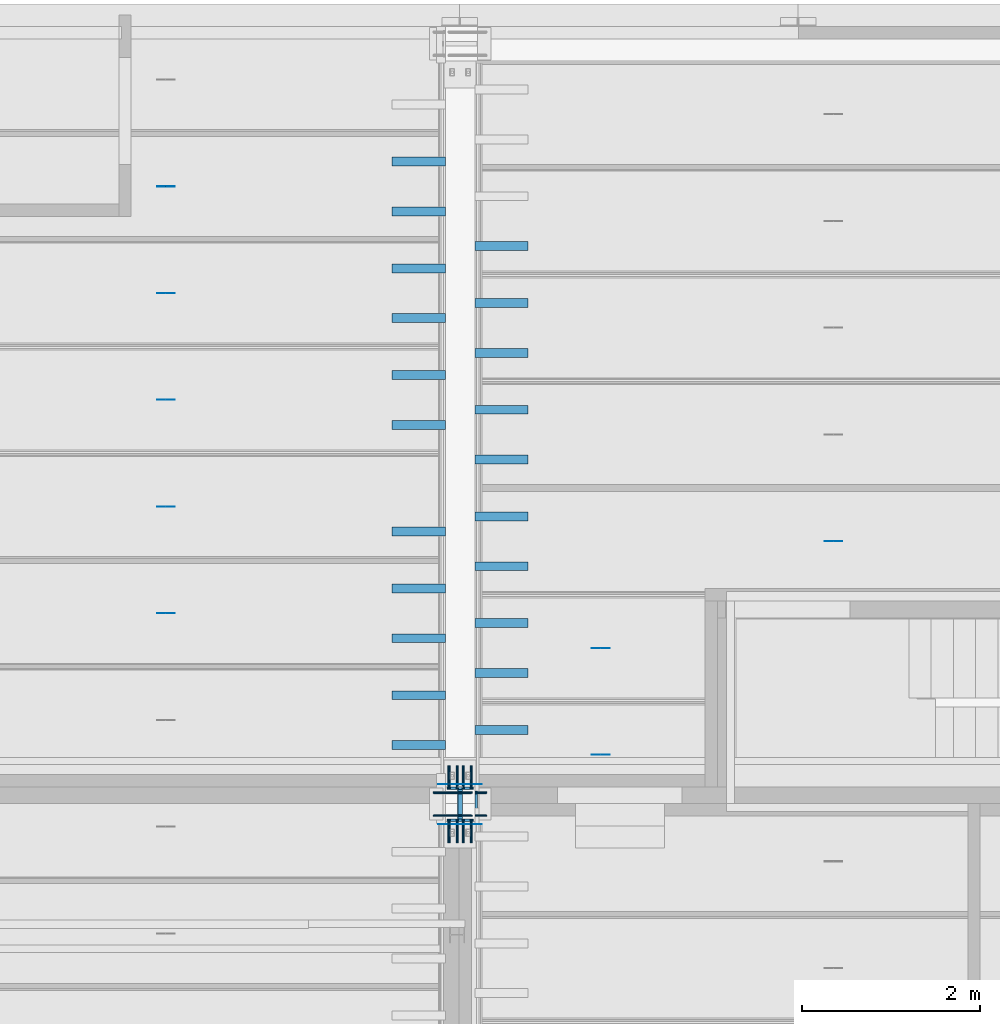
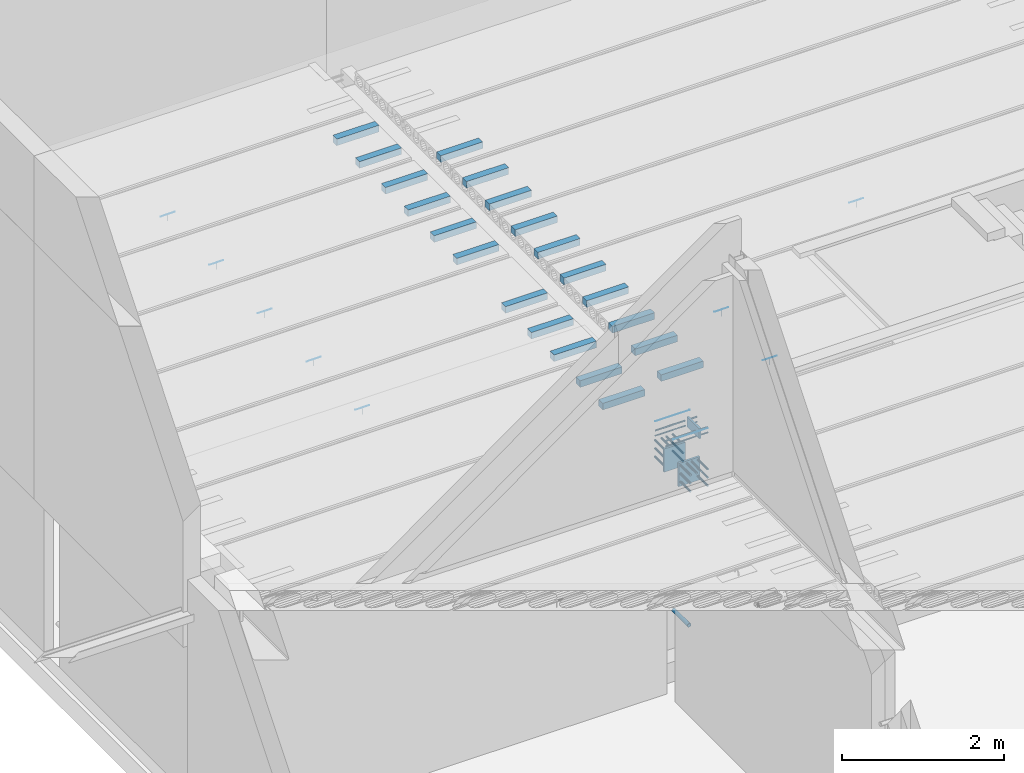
# One storey, part 26 of 230: 71 beams.
"""IFC4X3_ADD2 building model written with IfcOpenShell, lengths in millimetres."""

from ifc_helpers import new_model, si_unit, direction, frame, frame_2d, origin_with_axes, place, context, subcontext, project, spatial, indexed_curve, rectangle, hollow_circle, outline, extrude, material, element, save


model = new_model("IFC4X3_ADD2")

# Units and contexts
model_context = context("Model", 3, precision=1e-05, world=origin_with_axes(), true_north=direction((0.0, 1.0)))
body_context = subcontext(model_context, "Body", "Model", "MODEL_VIEW")
ifc_project = project(units=[si_unit("LENGTHUNIT", "METRE", prefix="MILLI"), si_unit("AREAUNIT", "SQUARE_METRE"), si_unit("VOLUMEUNIT", "CUBIC_METRE"), si_unit("PLANEANGLEUNIT", "RADIAN"), si_unit("TIMEUNIT", "SECOND"), si_unit("MASSUNIT", "GRAM")], contexts=[model_context])

# Site, building, storey
site_placement = place(None, origin_with_axes())
site = spatial("IfcSite", under=ifc_project, at=site_placement, Name="Site", CompositionType="ELEMENT")
building_placement = place(site_placement, origin_with_axes())
building = spatial("IfcBuilding", under=site, at=building_placement, Name="IFC Building Story")
storey_placement = place(building_placement, origin_with_axes())
storey = spatial("IfcBuildingStorey", under=building, at=storey_placement, Name="ETAGE 00 (0)", Elevation=0.0)

# Beams
ifc_material_1 = material(Name="STEEL/Accessory_invisible")
beam_1_placement = place(storey_placement, frame((39801.1890000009, 19030.0009155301, 4150.0), z_axis=(-1.0, 0.0, 0.0), x_axis=(0.0, -1.0, 0.0)))
element("IfcBeam", 1, at=beam_1_placement, inside=storey, material=ifc_material_1, Name="ES7", ObjectType="100*100", context=body_context, shape_type="SweptSolid", body=[
    extrude(rectangle(XDim=100.0, YDim=99.99999999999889, at=frame_2d((0.0, 5.95523630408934e-12), x_axis=(1.0, 0.0))), origin_with_axes(), (0.0, 0.0, 1.0), 600.0),
])
beam_2_placement = place(storey_placement, frame((39801.1890000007, 18470.000915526, 4150.0), z_axis=(-1.0, 0.0, 0.0), x_axis=(0.0, -1.0, 0.0)))
element("IfcBeam", 2, at=beam_2_placement, inside=storey, material=ifc_material_1, Name="ES7", ObjectType="100*100", context=body_context, shape_type="SweptSolid", body=[
    extrude(rectangle(XDim=100.0, YDim=99.99999999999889, at=frame_2d((0.0, 5.95523630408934e-12), x_axis=(1.0, 0.0))), origin_with_axes(), (0.0, 0.0, 1.0), 600.0000000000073),
])
for number, where, z_axis, x_axis, name in (
    (3, (39801.189000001, 20230.0009155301, 4150.0), (-1.0, 0.0, 0.0), (0.0, -1.0, 0.0), "ES7"),
    (4, (39801.1890000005, 19670.000915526, 4150.0), (-1.0, 0.0, 0.0), (0.0, -1.0, 0.0), "ES7"),
):
    element("IfcBeam", number, at=place(storey_placement, frame(where, z_axis=z_axis, x_axis=x_axis)), inside=storey, material=ifc_material_1, Name=name, ObjectType="100*100", context=body_context, shape_type="SweptSolid", body=[
        extrude(rectangle(XDim=100.0, YDim=99.99999999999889, at=frame_2d((0.0, 5.95523630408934e-12), x_axis=(1.0, 0.0))), origin_with_axes(), (0.0, 0.0, 1.0), 600.0),
    ])
ifc_material_2 = material(Name="STEEL/Accessory_invisible 261")
beam_3_placement = place(storey_placement, frame((36659.1890000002, 19950.0009155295, 4049.9999909), z_axis=(-1.0, 0.0, 0.0), x_axis=(0.0, 0.0, -1.0)))
element("IfcBeam", 5, at=beam_3_placement, inside=storey, material=ifc_material_2, Name="ES6", ObjectType="1*1 2", context=body_context, shape_type="SweptSolid", body=[
    extrude(rectangle(XDim=100.0, YDim=0.9999999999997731, at=frame_2d((0.0, 5.95523630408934e-12), x_axis=(1.0, 0.0))), origin_with_axes(), (0.0, 0.0, 1.0), 1.0),
])
beam_4_placement = place(storey_placement, frame((36758.68900000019, 19950.0009155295, 4100.0), z_axis=(-1.0, 0.0, 0.0), x_axis=(0.0, 1.0, 0.0)))
element("IfcBeam", 6, at=beam_4_placement, inside=storey, material=ifc_material_2, Name="ES31", ObjectType="1*1 3", context=body_context, shape_type="SweptSolid", body=[
    extrude(rectangle(XDim=0.9999999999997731, YDim=0.9999999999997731, at=frame_2d((0.0, 5.95523630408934e-12), x_axis=(1.0, 0.0))), origin_with_axes(), (0.0, 0.0, 1.0), 199.9999999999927),
])
beam_5_placement = place(storey_placement, frame((39801.1890000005, 20870.000915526, 4150.0), z_axis=(-1.0, 0.0, 0.0), x_axis=(0.0, -1.0, 0.0)))
element("IfcBeam", 7, at=beam_5_placement, inside=storey, material=ifc_material_1, Name="ES7", ObjectType="100*100", context=body_context, shape_type="SweptSolid", body=[
    extrude(rectangle(XDim=100.0, YDim=99.99999999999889, at=frame_2d((0.0, 5.95523630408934e-12), x_axis=(1.0, 0.0))), origin_with_axes(), (0.0, 0.0, 1.0), 600.0),
])
beam_6_placement = place(storey_placement, frame((36659.1890000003, 21150.0009155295, 4049.9999909), z_axis=(-1.0, 0.0, 0.0), x_axis=(0.0, 0.0, -1.0)))
element("IfcBeam", 8, at=beam_6_placement, inside=storey, material=ifc_material_2, Name="ES6", ObjectType="1*1 2", context=body_context, shape_type="SweptSolid", body=[
    extrude(rectangle(XDim=100.0, YDim=0.9999999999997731, at=frame_2d((0.0, 5.95523630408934e-12), x_axis=(1.0, 0.0))), origin_with_axes(), (0.0, 0.0, 1.0), 1.0),
])
beam_7_placement = place(storey_placement, frame((36758.6890000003, 21150.0009155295, 4100.0), z_axis=(-1.0, 0.0, 0.0), x_axis=(0.0, 1.0, 0.0)))
element("IfcBeam", 9, at=beam_7_placement, inside=storey, material=ifc_material_2, Name="ES31", ObjectType="1*1 3", context=body_context, shape_type="SweptSolid", body=[
    extrude(rectangle(XDim=0.9999999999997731, YDim=0.9999999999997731, at=frame_2d((0.0, 5.95523630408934e-12), x_axis=(1.0, 0.0))), origin_with_axes(), (0.0, 0.0, 1.0), 200.0),
])
for number, where, z_axis, x_axis, name in (
    (10, (39801.189000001, 22630.0009155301, 4150.0), (-1.0, 0.0, 0.0), (0.0, -1.0, 0.0), "ES7"),
    (11, (39801.1890000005, 22070.0009155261, 4150.0), (-1.0, 0.0, 0.0), (0.0, -1.0, 0.0), "ES7"),
):
    element("IfcBeam", number, at=place(storey_placement, frame(where, z_axis=z_axis, x_axis=x_axis)), inside=storey, material=ifc_material_1, Name=name, ObjectType="100*100", context=body_context, shape_type="SweptSolid", body=[
        extrude(rectangle(XDim=100.0, YDim=99.99999999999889, at=frame_2d((0.0, 5.95523630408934e-12), x_axis=(1.0, 0.0))), origin_with_axes(), (0.0, 0.0, 1.0), 600.0),
    ])
beam_8_placement = place(storey_placement, frame((36659.1890000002, 22350.0009155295, 4049.9999909), z_axis=(-1.0, 0.0, 0.0), x_axis=(0.0, 0.0, -1.0)))
element("IfcBeam", 12, at=beam_8_placement, inside=storey, material=ifc_material_2, Name="ES6", ObjectType="1*1 2", context=body_context, shape_type="SweptSolid", body=[
    extrude(rectangle(XDim=100.0, YDim=0.9999999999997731, at=frame_2d((0.0, 5.95523630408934e-12), x_axis=(1.0, 0.0))), origin_with_axes(), (0.0, 0.0, 1.0), 1.0),
])
beam_9_placement = place(storey_placement, frame((36758.68900000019, 22350.0009155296, 4100.0), z_axis=(-1.0, 0.0, 0.0), x_axis=(0.0, 1.0, 0.0)))
element("IfcBeam", 13, at=beam_9_placement, inside=storey, material=ifc_material_2, Name="ES31", ObjectType="1*1 3", context=body_context, shape_type="SweptSolid", body=[
    extrude(rectangle(XDim=0.9999999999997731, YDim=0.9999999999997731, at=frame_2d((0.0, 5.95523630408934e-12), x_axis=(1.0, 0.0))), origin_with_axes(), (0.0, 0.0, 1.0), 199.9999999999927),
])
for number, where, z_axis, x_axis, name in (
    (14, (39801.189000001, 23830.0009155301, 4150.0), (-1.0, 0.0, 0.0), (0.0, -1.0, 0.0), "ES7"),
    (15, (39801.1890000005, 23270.000915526, 4150.0), (-1.0, 0.0, 0.0), (0.0, -1.0, 0.0), "ES7"),
):
    element("IfcBeam", number, at=place(storey_placement, frame(where, z_axis=z_axis, x_axis=x_axis)), inside=storey, material=ifc_material_1, Name=name, ObjectType="100*100", context=body_context, shape_type="SweptSolid", body=[
        extrude(rectangle(XDim=100.0, YDim=99.99999999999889, at=frame_2d((0.0, 5.95523630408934e-12), x_axis=(1.0, 0.0))), origin_with_axes(), (0.0, 0.0, 1.0), 600.0),
    ])
beam_10_placement = place(storey_placement, frame((36659.1890000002, 23550.0009155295, 4049.9999909), z_axis=(-1.0, 0.0, 0.0), x_axis=(0.0, 0.0, -1.0)))
element("IfcBeam", 16, at=beam_10_placement, inside=storey, material=ifc_material_2, Name="ES6", ObjectType="1*1 2", context=body_context, shape_type="SweptSolid", body=[
    extrude(rectangle(XDim=100.0, YDim=0.9999999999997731, at=frame_2d((0.0, 5.95523630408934e-12), x_axis=(1.0, 0.0))), origin_with_axes(), (0.0, 0.0, 1.0), 1.0),
])
beam_11_placement = place(storey_placement, frame((36758.68900000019, 23550.0009155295, 4100.0), z_axis=(-1.0, 0.0, 0.0), x_axis=(0.0, 1.0, 0.0)))
element("IfcBeam", 17, at=beam_11_placement, inside=storey, material=ifc_material_2, Name="ES31", ObjectType="1*1 3", context=body_context, shape_type="SweptSolid", body=[
    extrude(rectangle(XDim=0.9999999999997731, YDim=0.9999999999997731, at=frame_2d((0.0, 5.95523630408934e-12), x_axis=(1.0, 0.0))), origin_with_axes(), (0.0, 0.0, 1.0), 199.9999999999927),
])
for number, where, z_axis, x_axis, name in (
    (18, (39801.1890000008, 25030.0009155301, 4150.0), (-1.0, 0.0, 0.0), (0.0, -1.0, 0.0), "ES7"),
    (19, (39801.1890000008, 24470.000915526, 4150.0), (-1.0, 0.0, 0.0), (0.0, -1.0, 0.0), "ES7"),
):
    element("IfcBeam", number, at=place(storey_placement, frame(where, z_axis=z_axis, x_axis=x_axis)), inside=storey, material=ifc_material_1, Name=name, ObjectType="100*100", context=body_context, shape_type="SweptSolid", body=[
        extrude(rectangle(XDim=100.0, YDim=99.99999999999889, at=frame_2d((0.0, 5.95523630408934e-12), x_axis=(1.0, 0.0))), origin_with_axes(), (0.0, 0.0, 1.0), 600.0),
    ])
beam_12_placement = place(storey_placement, frame((36659.1890000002, 24750.0009155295, 4049.9999909), z_axis=(-1.0, 0.0, 0.0), x_axis=(0.0, 0.0, -1.0)))
element("IfcBeam", 20, at=beam_12_placement, inside=storey, material=ifc_material_2, Name="ES6", ObjectType="1*1 2", context=body_context, shape_type="SweptSolid", body=[
    extrude(rectangle(XDim=100.0, YDim=0.9999999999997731, at=frame_2d((0.0, 5.95523630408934e-12), x_axis=(1.0, 0.0))), origin_with_axes(), (0.0, 0.0, 1.0), 1.0),
])
beam_13_placement = place(storey_placement, frame((36758.68900000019, 24750.0009155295, 4100.0), z_axis=(-1.0, 0.0, 0.0), x_axis=(0.0, 1.0, 0.0)))
element("IfcBeam", 21, at=beam_13_placement, inside=storey, material=ifc_material_2, Name="ES31", ObjectType="1*1 3", context=body_context, shape_type="SweptSolid", body=[
    extrude(rectangle(XDim=0.9999999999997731, YDim=0.9999999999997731, at=frame_2d((0.0, 5.95523630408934e-12), x_axis=(1.0, 0.0))), origin_with_axes(), (0.0, 0.0, 1.0), 199.9999999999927),
])
for number, where, z_axis, x_axis, name in (
    (22, (40731.189, 22240.0006103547, 4150.0), (-1.0, 0.0, 0.0), (0.0, 1.0, 0.0), "ES7"),
    (23, (40731.189, 21680.0006103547, 4150.0), (-1.0, 0.0, 0.0), (0.0, 1.0, 0.0), "ES7"),
    (24, (40731.189, 21040.0006103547, 4150.0), (-1.0, 0.0, 0.0), (0.0, 1.0, 0.0), "ES7"),
    (25, (40731.189, 20480.0006103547, 4150.0), (-1.0, 0.0, 0.0), (0.0, 1.0, 0.0), "ES7"),
):
    element("IfcBeam", number, at=place(storey_placement, frame(where, z_axis=z_axis, x_axis=x_axis)), inside=storey, material=ifc_material_1, Name=name, ObjectType="100*100", context=body_context, shape_type="SweptSolid", body=[
        extrude(rectangle(XDim=100.0, YDim=99.99999999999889, at=frame_2d((0.0, 5.95523630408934e-12), x_axis=(1.0, 0.0))), origin_with_axes(), (0.0, 0.0, 1.0), 600.0),
    ])
beam_14_placement = place(storey_placement, frame((44164.189, 20760.0006103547, 4049.9999909), z_axis=(-1.0, 0.0, 0.0), x_axis=(0.0, 0.0, -1.0)))
element("IfcBeam", 26, at=beam_14_placement, inside=storey, material=ifc_material_2, Name="ES6", ObjectType="1*1 2", context=body_context, shape_type="SweptSolid", body=[
    extrude(rectangle(XDim=100.0, YDim=0.9999999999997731, at=frame_2d((0.0, 5.95523630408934e-12), x_axis=(1.0, 0.0))), origin_with_axes(), (0.0, 0.0, 1.0), 1.0),
])
beam_15_placement = place(storey_placement, frame((44263.689, 20760.0006103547, 4100.0), z_axis=(-1.0, 0.0, 0.0), x_axis=(0.0, 1.0, 0.0)))
element("IfcBeam", 27, at=beam_15_placement, inside=storey, material=ifc_material_2, Name="ES31", ObjectType="1*1 3", context=body_context, shape_type="SweptSolid", body=[
    extrude(rectangle(XDim=0.9999999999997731, YDim=0.9999999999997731, at=frame_2d((0.0, 5.95523630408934e-12), x_axis=(1.0, 0.0))), origin_with_axes(), (0.0, 0.0, 1.0), 199.9999999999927),
])
for number, where, z_axis, x_axis, name in (
    (28, (40731.189, 19840.0, 4150.0), (-1.0, 0.0, 0.0), (0.0, 1.0, 0.0), "ES7"),
    (29, (40731.189, 19280.0, 4150.0), (-1.0, 0.0, 0.0), (0.0, 1.0, 0.0), "ES7"),
):
    element("IfcBeam", number, at=place(storey_placement, frame(where, z_axis=z_axis, x_axis=x_axis)), inside=storey, material=ifc_material_1, Name=name, ObjectType="100*100", context=body_context, shape_type="SweptSolid", body=[
        extrude(rectangle(XDim=100.0, YDim=99.99999999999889, at=frame_2d((0.0, 5.95523630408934e-12), x_axis=(1.0, 0.0))), origin_with_axes(), (0.0, 0.0, 1.0), 600.0),
    ])
beam_16_placement = place(storey_placement, frame((41547.18900000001, 19560.0, 4049.9999909), z_axis=(-1.0, 0.0, 0.0), x_axis=(0.0, 0.0, -1.0)))
element("IfcBeam", 30, at=beam_16_placement, inside=storey, material=ifc_material_2, Name="ES6", ObjectType="1*1 2", context=body_context, shape_type="SweptSolid", body=[
    extrude(rectangle(XDim=100.0, YDim=0.9999999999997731, at=frame_2d((0.0, 5.95523630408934e-12), x_axis=(1.0, 0.0))), origin_with_axes(), (0.0, 0.0, 1.0), 1.0),
])
beam_17_placement = place(storey_placement, frame((41646.68899999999, 19560.0, 4100.0), z_axis=(-1.0, 0.0, 0.0), x_axis=(0.0, 1.0, 0.0)))
element("IfcBeam", 31, at=beam_17_placement, inside=storey, material=ifc_material_2, Name="ES31", ObjectType="1*1 3", context=body_context, shape_type="SweptSolid", body=[
    extrude(rectangle(XDim=0.9999999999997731, YDim=0.9999999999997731, at=frame_2d((0.0, 5.95523630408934e-12), x_axis=(1.0, 0.0))), origin_with_axes(), (0.0, 0.0, 1.0), 199.9999999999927),
])
beam_18_placement = place(storey_placement, frame((40731.189, 18640.0, 4150.0), z_axis=(-1.0, 0.0, 0.0), x_axis=(0.0, 1.0, 0.0)))
element("IfcBeam", 32, at=beam_18_placement, inside=storey, material=ifc_material_1, Name="ES7", ObjectType="100*100", context=body_context, shape_type="SweptSolid", body=[
    extrude(rectangle(XDim=100.0, YDim=99.99999999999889, at=frame_2d((0.0, 5.95523630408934e-12), x_axis=(1.0, 0.0))), origin_with_axes(), (0.0, 0.0, 1.0), 600.0),
])
beam_19_placement = place(storey_placement, frame((41547.18900000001, 18360.0, 4049.9999909), z_axis=(-1.0, 0.0, 0.0), x_axis=(0.0, 0.0, -1.0)))
element("IfcBeam", 33, at=beam_19_placement, inside=storey, material=ifc_material_2, Name="ES6", ObjectType="1*1 2", context=body_context, shape_type="SweptSolid", body=[
    extrude(rectangle(XDim=100.0, YDim=0.9999999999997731, at=frame_2d((0.0, 5.95523630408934e-12), x_axis=(1.0, 0.0))), origin_with_axes(), (0.0, 0.0, 1.0), 1.0),
])
beam_20_placement = place(storey_placement, frame((41646.68899999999, 18360.0, 4100.0), z_axis=(-1.0, 0.0, 0.0), x_axis=(0.0, 1.0, 0.0)))
element("IfcBeam", 34, at=beam_20_placement, inside=storey, material=ifc_material_2, Name="ES31", ObjectType="1*1 3", context=body_context, shape_type="SweptSolid", body=[
    extrude(rectangle(XDim=0.9999999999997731, YDim=0.9999999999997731, at=frame_2d((0.0, 5.95523630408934e-12), x_axis=(1.0, 0.0))), origin_with_axes(), (0.0, 0.0, 1.0), 199.9999999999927),
])
for number, where, z_axis, x_axis, name in (
    (35, (40211.18900000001, 17580.0, 3984.49999999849), (-1.0, 0.0, 0.0), (0.0, 1.0, 0.0), "ZW3"),
    (36, (39861.089, 17580.0, 3984.49999999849), (-1.0, 0.0, 0.0), (0.0, 1.0, 0.0), "ZW3"),
):
    element("IfcBeam", number, at=place(storey_placement, frame(where, z_axis=z_axis, x_axis=x_axis)), inside=storey, material=ifc_material_1, Name=name, ObjectType="1*1 3", context=body_context, shape_type="SweptSolid", body=[
        extrude(rectangle(XDim=0.9999999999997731, YDim=0.9999999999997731, at=frame_2d((0.0, 5.95523630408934e-12), x_axis=(1.0, 0.0))), origin_with_axes(), (0.0, 0.0, 1.0), 139.9000000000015),
    ])
beam_21_placement = place(storey_placement, frame((40071.18900000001, 17580.0, 3984.5), z_axis=(-1.0, 0.0, 0.0), x_axis=(0.0, 1.0, 0.0)))
element("IfcBeam", 37, at=beam_21_placement, inside=storey, material=ifc_material_1, Name="ZW3", ObjectType="1*1 3", context=body_context, shape_type="SweptSolid", body=[
    extrude(rectangle(XDim=0.9999999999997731, YDim=0.9999999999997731, at=frame_2d((0.0, 5.95523630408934e-12), x_axis=(1.0, 0.0))), origin_with_axes(), (0.0, 0.0, 1.0), 210.0000000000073),
])
for number, where, z_axis, x_axis, name in (
    (38, (39861.089, 18030.0, 3984.49999999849), (-1.0, 0.0, 0.0), (0.0, 1.0, 0.0), "ZW3"),
    (39, (40211.18900000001, 18030.0, 3984.49999999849), (-1.0, 0.0, 0.0), (0.0, 1.0, 0.0), "ZW3"),
):
    element("IfcBeam", number, at=place(storey_placement, frame(where, z_axis=z_axis, x_axis=x_axis)), inside=storey, material=ifc_material_1, Name=name, ObjectType="1*1 3", context=body_context, shape_type="SweptSolid", body=[
        extrude(rectangle(XDim=0.9999999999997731, YDim=0.9999999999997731, at=frame_2d((0.0, 5.95523630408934e-12), x_axis=(1.0, 0.0))), origin_with_axes(), (0.0, 0.0, 1.0), 139.9000000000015),
    ])
beam_22_placement = place(storey_placement, frame((40071.18900000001, 18030.0, 3984.5), z_axis=(-1.0, 0.0, 0.0), x_axis=(0.0, 1.0, 0.0)))
element("IfcBeam", 40, at=beam_22_placement, inside=storey, material=ifc_material_1, Name="ZW3", ObjectType="1*1 3", context=body_context, shape_type="SweptSolid", body=[
    extrude(rectangle(XDim=0.9999999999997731, YDim=0.9999999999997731, at=frame_2d((0.0, 5.95523630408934e-12), x_axis=(1.0, 0.0))), origin_with_axes(), (0.0, 0.0, 1.0), 210.0000000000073),
])
for number, where, z_axis, x_axis, name in (
    (41, (40731.189, 23440.0006103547, 4150.0), (-1.0, 0.0, 0.0), (0.0, 1.0, 0.0), "ES7"),
    (42, (40731.189, 22880.0006103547, 4150.0), (-1.0, 0.0, 0.0), (0.0, 1.0, 0.0), "ES7"),
    (43, (40731.189, 24080.0006103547, 4150.0), (-1.0, 0.0, 0.0), (0.0, 1.0, 0.0), "ES7"),
):
    element("IfcBeam", number, at=place(storey_placement, frame(where, z_axis=z_axis, x_axis=x_axis)), inside=storey, material=ifc_material_1, Name=name, ObjectType="100*100", context=body_context, shape_type="SweptSolid", body=[
        extrude(rectangle(XDim=100.0, YDim=99.99999999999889, at=frame_2d((0.0, 5.95523630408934e-12), x_axis=(1.0, 0.0))), origin_with_axes(), (0.0, 0.0, 1.0), 600.0),
    ])
ifc_material_3 = material(Name="STEEL/Accessory_EPS")
for number, where, z_axis, x_axis, name in (
    (44, (40116.189, 17625.0, 3395.0), (-1.0, 0.0, 0.0), (0.0, 0.0, 1.0), "POL4"),
    (45, (40116.189, 17985.0, 3395.0), (-1.0, 0.0, 0.0), (0.0, 0.0, 1.0), "POL4"),
):
    element("IfcBeam", number, at=place(storey_placement, frame(where, z_axis=z_axis, x_axis=x_axis)), inside=storey, material=ifc_material_3, Name=name, ObjectType="30*300 2", context=body_context, shape_type="SweptSolid", body=[
        extrude(rectangle(XDim=350.0, YDim=29.9999999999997, at=frame_2d((0.0, 5.95523630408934e-12), x_axis=(1.0, 0.0))), origin_with_axes(), (0.0, 0.0, 1.0), 300.0),
    ])
beam_23_placement = place(storey_placement, frame((40131.189, 17805.0, 3880.0), z_axis=(1.0, 0.0, 0.0), x_axis=(0.0, 0.0, -1.0)))
element("IfcBeam", 46, at=beam_23_placement, inside=storey, material=ifc_material_3, Name="POL4", ObjectType="30*300 3", context=body_context, shape_type="SweptSolid", body=[
    extrude(rectangle(XDim=150.0, YDim=300.000000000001, at=frame_2d((0.0, 5.95523630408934e-12), x_axis=(1.0, 0.0))), origin_with_axes(), (0.0, 0.0, 1.0), 29.99999999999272),
])
ifc_material_4 = material(Name="STEEL/Accessory")
for number, where, z_axis, x_axis, name in (
    (47, (40091.189, 17934.0, 3923.999999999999), (-1.0, 0.0, 0.0), (0.0, 0.9238795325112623, 0.3826834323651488), "SD12"),
    (48, (40091.189, 17676.0, 3924.0), (-1.0, 0.0, 0.0), (0.0, 0.9238795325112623, 0.3826834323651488), "SD12"),
):
    element("IfcBeam", number, at=place(storey_placement, frame(where, z_axis=z_axis, x_axis=x_axis)), inside=storey, material=ifc_material_4, Name=name, ObjectType="D19", context=body_context, shape_type="SweptSolid", body=[
        extrude(outline(indexed_curve([(-3.635492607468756, -8.776855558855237), (-8.776855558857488, -3.635492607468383), (-8.776855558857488, 3.635492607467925), (-3.635492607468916, 8.776855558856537), (3.635492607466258, 8.776855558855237), (8.776855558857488, 3.635492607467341), (8.77685555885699, -3.635492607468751), (3.635492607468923, -8.776855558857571), (-3.635492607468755, -8.776855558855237)])), origin_with_axes(), (0.0, 0.0, 1.0), 420.0),
    ])
for number, where, z_axis, x_axis, name in (
    (49, (40101.189, 17674.0, 3844.0), (-1.0, 0.0, 0.0), (0.0, -0.9238795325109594, -0.3826834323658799), "SD12"),
    (50, (40101.189, 17936.0, 3844.0), (-1.0, 0.0, 0.0), (0.0, -0.9238795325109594, -0.3826834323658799), "SD12"),
):
    element("IfcBeam", number, at=place(storey_placement, frame(where, z_axis=z_axis, x_axis=x_axis)), inside=storey, material=ifc_material_4, Name=name, ObjectType="D15", context=body_context, shape_type="SweptSolid", body=[
        extrude(outline(indexed_curve([(2.87012574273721, 6.929096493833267), (6.929096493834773, 2.87012574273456), (6.929096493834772, -2.870125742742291), (2.870125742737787, -6.929096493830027), (-2.870125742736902, -6.929096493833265), (-6.92909649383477, -2.870125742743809), (-6.929096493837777, 2.870125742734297), (-2.870125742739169, 6.929096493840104), (2.870125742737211, 6.929096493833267)])), origin_with_axes(), (0.0, 0.0, 1.0), 435.0),
    ])
for number, where, z_axis, x_axis, name in (
    (51, (40261.18899999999, 17934.0, 3923.999999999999), (-1.0, 0.0, 0.0), (0.0, 0.9238795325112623, 0.3826834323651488), "SD12"),
    (52, (40261.18899999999, 17676.0, 3924.0), (-1.0, 0.0, 0.0), (0.0, 0.9238795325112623, 0.3826834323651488), "SD12"),
):
    element("IfcBeam", number, at=place(storey_placement, frame(where, z_axis=z_axis, x_axis=x_axis)), inside=storey, material=ifc_material_4, Name=name, ObjectType="D19", context=body_context, shape_type="SweptSolid", body=[
        extrude(outline(indexed_curve([(-3.635492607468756, -8.776855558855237), (-8.776855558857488, -3.635492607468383), (-8.776855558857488, 3.635492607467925), (-3.635492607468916, 8.776855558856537), (3.635492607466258, 8.776855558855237), (8.776855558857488, 3.635492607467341), (8.77685555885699, -3.635492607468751), (3.635492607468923, -8.776855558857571), (-3.635492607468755, -8.776855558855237)])), origin_with_axes(), (0.0, 0.0, 1.0), 124.9999999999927),
    ])
beam_24_placement = place(storey_placement, frame((40266.1890000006, 17936.0, 3844.0), z_axis=(-1.0, 0.0, 0.0), x_axis=(0.0, -0.9238795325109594, -0.3826834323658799)))
element("IfcBeam", 53, at=beam_24_placement, inside=storey, material=ifc_material_4, Name="SD12", ObjectType="D15", context=body_context, shape_type="SweptSolid", body=[
    extrude(outline(indexed_curve([(2.87012574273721, 6.929096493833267), (6.929096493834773, 2.87012574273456), (6.929096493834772, -2.870125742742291), (2.870125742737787, -6.929096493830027), (-2.870125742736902, -6.929096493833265), (-6.92909649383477, -2.870125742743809), (-6.929096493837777, 2.870125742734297), (-2.870125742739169, 6.929096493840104), (2.870125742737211, 6.929096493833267)])), origin_with_axes(), (0.0, 0.0, 1.0), 129.9999999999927),
])
beam_25_placement = place(storey_placement, frame((40266.18899999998, 17674.0, 3844.0), z_axis=(-1.0, 0.0, 0.0), x_axis=(0.0, -0.9238795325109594, -0.3826834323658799)))
element("IfcBeam", 54, at=beam_25_placement, inside=storey, material=ifc_material_4, Name="SD12", ObjectType="D15", context=body_context, shape_type="SweptSolid", body=[
    extrude(outline(indexed_curve([(2.87012574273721, 6.929096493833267), (6.929096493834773, 2.87012574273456), (6.929096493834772, -2.870125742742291), (2.870125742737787, -6.929096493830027), (-2.870125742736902, -6.929096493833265), (-6.92909649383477, -2.870125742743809), (-6.929096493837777, 2.870125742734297), (-2.870125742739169, 6.929096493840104), (2.870125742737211, 6.929096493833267)])), origin_with_axes(), (0.0, 0.0, 1.0), 129.9999999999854),
])
ifc_material_5 = material(Name="STEEL/Accessory_PVC")
beam_26_placement = place(storey_placement, frame((39966.189, 17612.9999999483, 1080.0), z_axis=(0.0, 1.0, 0.0), x_axis=(1.0, 0.0, 0.0)))
element("IfcBeam", 55, at=beam_26_placement, inside=storey, material=ifc_material_5, Name="PS13", ObjectType="O56*3", context=body_context, shape_type="SweptSolid", body=[
    extrude(hollow_circle(Radius=28.0, WallThickness=3.0, at=frame_2d((0.0, 5.95523630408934e-12), x_axis=(1.0, 0.0))), origin_with_axes(), (0.0, 0.0, 1.0), 383.9999999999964),
])
for number, where, z_axis, x_axis, name in (
    (56, (39842.18900000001, 17634.9999999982, 3534.0), (0.0, -1.0, 0.0), (-0.9659258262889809, 0.0, 0.2588190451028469), "SD12"),
    (57, (39842.18900000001, 17634.9999999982, 3286.000000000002), (0.0, -1.0, 0.0), (-0.9659258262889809, 0.0, 0.2588190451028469), "SD12"),
):
    element("IfcBeam", number, at=place(storey_placement, frame(where, z_axis=z_axis, x_axis=x_axis)), inside=storey, material=ifc_material_4, Name=name, ObjectType="D30", context=body_context, shape_type="SweptSolid", body=[
        extrude(outline(indexed_curve([(10.60660171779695, 10.60660171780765), (14.48888739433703, 3.882285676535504), (14.48888739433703, -3.882285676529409), (10.60660171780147, -10.60660171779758), (3.882285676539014, -14.48888739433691), (-3.882285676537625, -14.48888739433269), (-10.60660171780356, -10.60660171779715), (-14.48888739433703, -3.882285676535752), (-14.48888739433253, 3.882285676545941), (-10.60660171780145, 10.60660171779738), (-3.882285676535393, 14.48888739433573), (3.882285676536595, 14.48888739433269), (10.60660171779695, 10.60660171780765)])), origin_with_axes(), (0.0, 0.0, 1.0), 264.9999999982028),
    ])
for number, where, z_axis, x_axis, name in (
    (58, (39842.18900000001, 18239.99999999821, 3534.0), (0.0, -1.0, 0.0), (0.9659258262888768, 0.0, 0.2588190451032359), "SD12"),
    (59, (39842.18900000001, 18239.99999999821, 3286.0), (0.0, -1.0, 0.0), (0.9659258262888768, 0.0, 0.2588190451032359), "SD12"),
    (60, (39932.18900000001, 17634.99999999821, 3534.0), (0.0, -1.0, 0.0), (-0.9659258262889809, 0.0, 0.2588190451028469), "SD12"),
):
    element("IfcBeam", number, at=place(storey_placement, frame(where, z_axis=z_axis, x_axis=x_axis)), inside=storey, material=ifc_material_4, Name=name, ObjectType="D30", context=body_context, shape_type="SweptSolid", body=[
        extrude(outline(indexed_curve([(10.60660171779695, 10.60660171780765), (14.48888739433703, 3.882285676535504), (14.48888739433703, -3.882285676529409), (10.60660171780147, -10.60660171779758), (3.882285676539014, -14.48888739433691), (-3.882285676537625, -14.48888739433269), (-10.60660171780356, -10.60660171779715), (-14.48888739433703, -3.882285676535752), (-14.48888739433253, 3.882285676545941), (-10.60660171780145, 10.60660171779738), (-3.882285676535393, 14.48888739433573), (3.882285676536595, 14.48888739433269), (10.60660171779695, 10.60660171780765)])), origin_with_axes(), (0.0, 0.0, 1.0), 264.9999999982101),
    ])
beam_27_placement = place(storey_placement, frame((39932.18900000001, 18240.0000000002, 3534.0), z_axis=(0.0, -1.0, 0.0), x_axis=(0.9659258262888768, 0.0, 0.2588190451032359)))
element("IfcBeam", 61, at=beam_27_placement, inside=storey, material=ifc_material_4, Name="SD12", ObjectType="D30", context=body_context, shape_type="SweptSolid", body=[
    extrude(outline(indexed_curve([(10.60660171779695, 10.60660171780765), (14.48888739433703, 3.882285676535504), (14.48888739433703, -3.882285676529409), (10.60660171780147, -10.60660171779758), (3.882285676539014, -14.48888739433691), (-3.882285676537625, -14.48888739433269), (-10.60660171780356, -10.60660171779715), (-14.48888739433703, -3.882285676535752), (-14.48888739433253, 3.882285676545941), (-10.60660171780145, 10.60660171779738), (-3.882285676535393, 14.48888739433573), (3.882285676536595, 14.48888739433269), (10.60660171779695, 10.60660171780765)])), origin_with_axes(), (0.0, 0.0, 1.0), 264.9999999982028),
])
for number, where, z_axis, x_axis, name in (
    (62, (40090.18900000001, 17634.99999999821, 3286.000000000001), (0.0, -1.0, 0.0), (-0.9659258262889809, 0.0, 0.2588190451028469), "SD12"),
    (63, (40002.18900000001, 17634.99999999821, 3534.0), (0.0, -1.0, 0.0), (-0.9659258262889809, 0.0, 0.2588190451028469), "SD12"),
):
    element("IfcBeam", number, at=place(storey_placement, frame(where, z_axis=z_axis, x_axis=x_axis)), inside=storey, material=ifc_material_4, Name=name, ObjectType="D30", context=body_context, shape_type="SweptSolid", body=[
        extrude(outline(indexed_curve([(10.60660171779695, 10.60660171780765), (14.48888739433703, 3.882285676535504), (14.48888739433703, -3.882285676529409), (10.60660171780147, -10.60660171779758), (3.882285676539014, -14.48888739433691), (-3.882285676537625, -14.48888739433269), (-10.60660171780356, -10.60660171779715), (-14.48888739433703, -3.882285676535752), (-14.48888739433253, 3.882285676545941), (-10.60660171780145, 10.60660171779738), (-3.882285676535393, 14.48888739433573), (3.882285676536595, 14.48888739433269), (10.60660171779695, 10.60660171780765)])), origin_with_axes(), (0.0, 0.0, 1.0), 264.9999999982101),
    ])
beam_28_placement = place(storey_placement, frame((40092.189, 17634.9999999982, 3534.0), z_axis=(0.0, -1.0, 0.0), x_axis=(0.9659258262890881, 0.0, -0.2588190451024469)))
element("IfcBeam", 64, at=beam_28_placement, inside=storey, material=ifc_material_4, Name="SD12", ObjectType="D30", context=body_context, shape_type="SweptSolid", body=[
    extrude(outline(indexed_curve([(10.60660171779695, 10.60660171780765), (14.48888739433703, 3.882285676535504), (14.48888739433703, -3.882285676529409), (10.60660171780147, -10.60660171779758), (3.882285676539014, -14.48888739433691), (-3.882285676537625, -14.48888739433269), (-10.60660171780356, -10.60660171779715), (-14.48888739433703, -3.882285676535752), (-14.48888739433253, 3.882285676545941), (-10.60660171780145, 10.60660171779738), (-3.882285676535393, 14.48888739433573), (3.882285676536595, 14.48888739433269), (10.60660171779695, 10.60660171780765)])), origin_with_axes(), (0.0, 0.0, 1.0), 264.9999999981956),
])
beam_29_placement = place(storey_placement, frame((40002.18900000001, 18240.00000000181, 3534.0), z_axis=(0.0, -1.0, 0.0), x_axis=(0.9659258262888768, 0.0, 0.2588190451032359)))
element("IfcBeam", 65, at=beam_29_placement, inside=storey, material=ifc_material_4, Name="SD12", ObjectType="D30", context=body_context, shape_type="SweptSolid", body=[
    extrude(outline(indexed_curve([(10.60660171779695, 10.60660171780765), (14.48888739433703, 3.882285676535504), (14.48888739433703, -3.882285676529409), (10.60660171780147, -10.60660171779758), (3.882285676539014, -14.48888739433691), (-3.882285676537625, -14.48888739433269), (-10.60660171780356, -10.60660171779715), (-14.48888739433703, -3.882285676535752), (-14.48888739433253, 3.882285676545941), (-10.60660171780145, 10.60660171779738), (-3.882285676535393, 14.48888739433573), (3.882285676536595, 14.48888739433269), (10.60660171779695, 10.60660171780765)])), origin_with_axes(), (0.0, 0.0, 1.0), 264.9999999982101),
])
for number, where, z_axis, x_axis, name in (
    (66, (40092.189, 18240.00000000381, 3534.000000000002), (0.0, -1.0, 0.0), (-0.9659258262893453, 0.0, -0.2588190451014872), "SD12"),
    (67, (40090.18900000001, 18240.00000000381, 3286.0), (0.0, -1.0, 0.0), (0.9659258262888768, 0.0, 0.2588190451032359), "SD12"),
):
    element("IfcBeam", number, at=place(storey_placement, frame(where, z_axis=z_axis, x_axis=x_axis)), inside=storey, material=ifc_material_4, Name=name, ObjectType="D30", context=body_context, shape_type="SweptSolid", body=[
        extrude(outline(indexed_curve([(10.60660171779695, 10.60660171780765), (14.48888739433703, 3.882285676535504), (14.48888739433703, -3.882285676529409), (10.60660171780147, -10.60660171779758), (3.882285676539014, -14.48888739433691), (-3.882285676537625, -14.48888739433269), (-10.60660171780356, -10.60660171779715), (-14.48888739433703, -3.882285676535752), (-14.48888739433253, 3.882285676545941), (-10.60660171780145, 10.60660171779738), (-3.882285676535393, 14.48888739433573), (3.882285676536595, 14.48888739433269), (10.60660171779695, 10.60660171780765)])), origin_with_axes(), (0.0, 0.0, 1.0), 264.9999999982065),
    ])
beam_30_placement = place(storey_placement, frame((39842.18900000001, 17634.9999999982, 3410.000000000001), z_axis=(0.0, -1.0, 0.0), x_axis=(-0.9659258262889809, 0.0, 0.2588190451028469)))
element("IfcBeam", 68, at=beam_30_placement, inside=storey, material=ifc_material_4, Name="SD12", ObjectType="D30", context=body_context, shape_type="SweptSolid", body=[
    extrude(outline(indexed_curve([(10.60660171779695, 10.60660171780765), (14.48888739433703, 3.882285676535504), (14.48888739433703, -3.882285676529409), (10.60660171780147, -10.60660171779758), (3.882285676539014, -14.48888739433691), (-3.882285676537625, -14.48888739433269), (-10.60660171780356, -10.60660171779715), (-14.48888739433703, -3.882285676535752), (-14.48888739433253, 3.882285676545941), (-10.60660171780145, 10.60660171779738), (-3.882285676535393, 14.48888739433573), (3.882285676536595, 14.48888739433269), (10.60660171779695, 10.60660171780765)])), origin_with_axes(), (0.0, 0.0, 1.0), 264.9999999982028),
])
for number, where, z_axis, x_axis, name in (
    (69, (39842.18900000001, 18239.99999999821, 3410.0), (0.0, -1.0, 0.0), (0.9659258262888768, 0.0, 0.2588190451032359), "SD12"),
    (70, (40090.18900000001, 17634.99999999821, 3410.0), (0.0, -1.0, 0.0), (-0.9659258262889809, 0.0, 0.2588190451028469), "SD12"),
):
    element("IfcBeam", number, at=place(storey_placement, frame(where, z_axis=z_axis, x_axis=x_axis)), inside=storey, material=ifc_material_4, Name=name, ObjectType="D30", context=body_context, shape_type="SweptSolid", body=[
        extrude(outline(indexed_curve([(10.60660171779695, 10.60660171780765), (14.48888739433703, 3.882285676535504), (14.48888739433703, -3.882285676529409), (10.60660171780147, -10.60660171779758), (3.882285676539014, -14.48888739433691), (-3.882285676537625, -14.48888739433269), (-10.60660171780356, -10.60660171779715), (-14.48888739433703, -3.882285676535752), (-14.48888739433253, 3.882285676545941), (-10.60660171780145, 10.60660171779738), (-3.882285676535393, 14.48888739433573), (3.882285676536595, 14.48888739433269), (10.60660171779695, 10.60660171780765)])), origin_with_axes(), (0.0, 0.0, 1.0), 264.9999999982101),
    ])
beam_31_placement = place(storey_placement, frame((40090.18900000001, 18240.00000000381, 3410.0), z_axis=(0.0, -1.0, 0.0), x_axis=(0.9659258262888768, 0.0, 0.2588190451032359)))
element("IfcBeam", 71, at=beam_31_placement, inside=storey, material=ifc_material_4, Name="SD12", ObjectType="D30", context=body_context, shape_type="SweptSolid", body=[
    extrude(outline(indexed_curve([(10.60660171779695, 10.60660171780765), (14.48888739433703, 3.882285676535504), (14.48888739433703, -3.882285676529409), (10.60660171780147, -10.60660171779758), (3.882285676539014, -14.48888739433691), (-3.882285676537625, -14.48888739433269), (-10.60660171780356, -10.60660171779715), (-14.48888739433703, -3.882285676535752), (-14.48888739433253, 3.882285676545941), (-10.60660171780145, 10.60660171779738), (-3.882285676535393, 14.48888739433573), (3.882285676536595, 14.48888739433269), (10.60660171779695, 10.60660171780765)])), origin_with_axes(), (0.0, 0.0, 1.0), 264.9999999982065),
])

save(model, "model.ifc")
